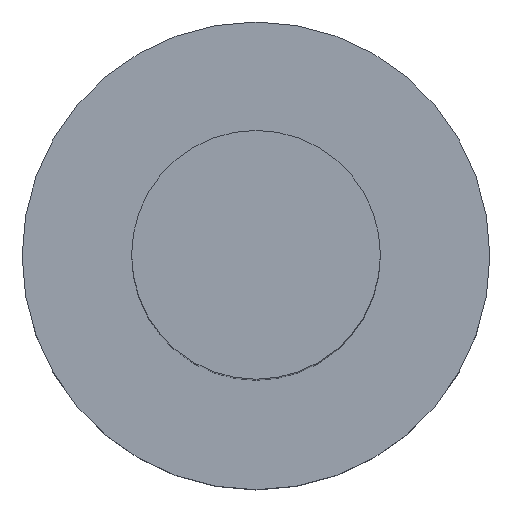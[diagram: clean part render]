
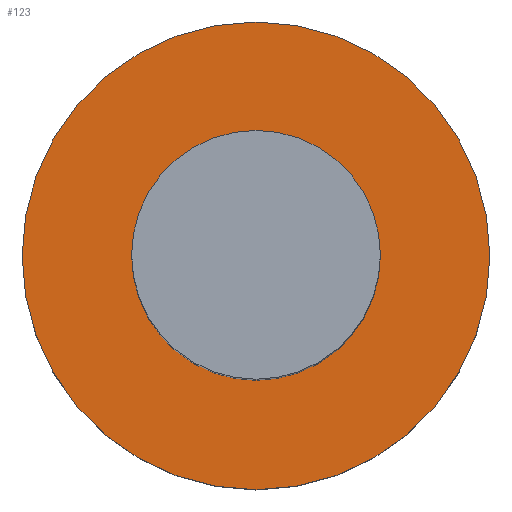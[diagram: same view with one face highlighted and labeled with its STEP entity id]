
A CAD part, top view. The second image highlights one B-rep face of the part: STEP entity #123.
In plain terms, the highlighted planar face has unit normal (0, 0, 1).
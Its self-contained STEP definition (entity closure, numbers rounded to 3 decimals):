
#39 = EDGE_CURVE('',#40,#40,#42,.T.);
#40 = VERTEX_POINT('',#41);
#41 = CARTESIAN_POINT('',(2.35,0.,0.));
#42 = SURFACE_CURVE('',#43,(#48,#60),.PCURVE_S1.);
#43 = CIRCLE('',#44,2.35);
#44 = AXIS2_PLACEMENT_3D('',#45,#46,#47);
#45 = CARTESIAN_POINT('',(0.,0.,0.));
#46 = DIRECTION('',(0.,0.,1.));
#47 = DIRECTION('',(1.,0.,-0.));
#48 = PCURVE('',#49,#54);
#49 = CYLINDRICAL_SURFACE('',#50,2.35);
#50 = AXIS2_PLACEMENT_3D('',#51,#52,#53);
#51 = CARTESIAN_POINT('',(0.,0.,-1.375));
#52 = DIRECTION('',(0.,0.,1.));
#53 = DIRECTION('',(1.,0.,-0.));
#54 = DEFINITIONAL_REPRESENTATION('',(#55),#59);
#55 = LINE('',#56,#57);
#56 = CARTESIAN_POINT('',(0.,1.375));
#57 = VECTOR('',#58,1.);
#58 = DIRECTION('',(1.,0.));
#59 = ( GEOMETRIC_REPRESENTATION_CONTEXT(2) 
PARAMETRIC_REPRESENTATION_CONTEXT() REPRESENTATION_CONTEXT('2D SPACE',''
  ) );
#60 = PCURVE('',#61,#66);
#61 = PLANE('',#62);
#62 = AXIS2_PLACEMENT_3D('',#63,#64,#65);
#63 = CARTESIAN_POINT('',(0.,0.,0.));
#64 = DIRECTION('',(0.,0.,1.));
#65 = DIRECTION('',(1.,0.,-0.));
#66 = DEFINITIONAL_REPRESENTATION('',(#67),#71);
#67 = CIRCLE('',#68,2.35);
#68 = AXIS2_PLACEMENT_2D('',#69,#70);
#69 = CARTESIAN_POINT('',(0.,0.));
#70 = DIRECTION('',(1.,0.));
#71 = ( GEOMETRIC_REPRESENTATION_CONTEXT(2) 
PARAMETRIC_REPRESENTATION_CONTEXT() REPRESENTATION_CONTEXT('2D SPACE',''
  ) );
#123 = ADVANCED_FACE('',(#124,#127),#61,.T.);
#124 = FACE_BOUND('',#125,.T.);
#125 = EDGE_LOOP('',(#126));
#126 = ORIENTED_EDGE('',*,*,#39,.T.);
#127 = FACE_BOUND('',#128,.T.);
#128 = EDGE_LOOP('',(#129));
#129 = ORIENTED_EDGE('',*,*,#130,.F.);
#130 = EDGE_CURVE('',#131,#131,#133,.T.);
#131 = VERTEX_POINT('',#132);
#132 = CARTESIAN_POINT('',(1.25,0.,0.));
#133 = SURFACE_CURVE('',#134,(#139,#146),.PCURVE_S1.);
#134 = CIRCLE('',#135,1.25);
#135 = AXIS2_PLACEMENT_3D('',#136,#137,#138);
#136 = CARTESIAN_POINT('',(0.,0.,0.));
#137 = DIRECTION('',(0.,0.,1.));
#138 = DIRECTION('',(1.,0.,-0.));
#139 = PCURVE('',#61,#140);
#140 = DEFINITIONAL_REPRESENTATION('',(#141),#145);
#141 = CIRCLE('',#142,1.25);
#142 = AXIS2_PLACEMENT_2D('',#143,#144);
#143 = CARTESIAN_POINT('',(0.,0.));
#144 = DIRECTION('',(1.,0.));
#145 = ( GEOMETRIC_REPRESENTATION_CONTEXT(2) 
PARAMETRIC_REPRESENTATION_CONTEXT() REPRESENTATION_CONTEXT('2D SPACE',''
  ) );
#146 = PCURVE('',#147,#152);
#147 = CYLINDRICAL_SURFACE('',#148,1.25);
#148 = AXIS2_PLACEMENT_3D('',#149,#150,#151);
#149 = CARTESIAN_POINT('',(0.,0.,0.));
#150 = DIRECTION('',(0.,0.,1.));
#151 = DIRECTION('',(1.,0.,-0.));
#152 = DEFINITIONAL_REPRESENTATION('',(#153),#157);
#153 = LINE('',#154,#155);
#154 = CARTESIAN_POINT('',(0.,0.));
#155 = VECTOR('',#156,1.);
#156 = DIRECTION('',(1.,0.));
#157 = ( GEOMETRIC_REPRESENTATION_CONTEXT(2) 
PARAMETRIC_REPRESENTATION_CONTEXT() REPRESENTATION_CONTEXT('2D SPACE',''
  ) );
